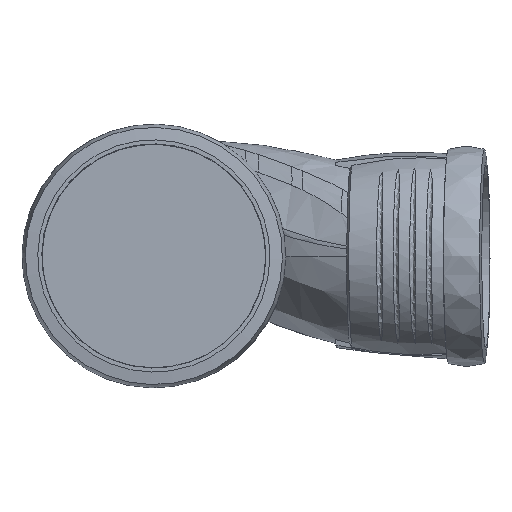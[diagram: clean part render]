
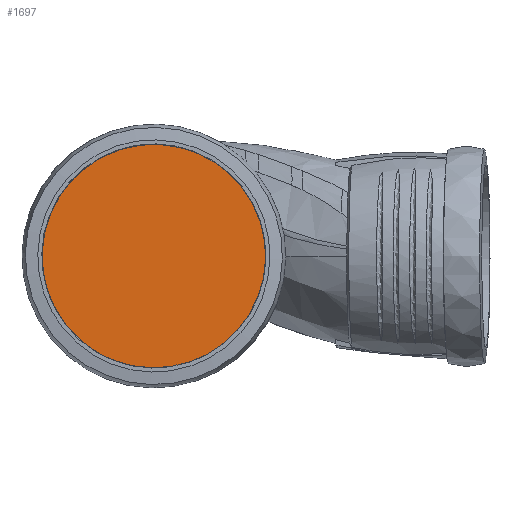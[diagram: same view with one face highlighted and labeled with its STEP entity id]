
A CAD part, top view. The second image highlights one B-rep face of the part: STEP entity #1697.
In plain terms, the highlighted planar face has unit normal (0, 0, 1).
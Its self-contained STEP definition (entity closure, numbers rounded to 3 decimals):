
#41=PLANE('',#1850);
#149=FACE_OUTER_BOUND('',#247,.T.);
#247=EDGE_LOOP('',(#1199,#1200));
#451=CIRCLE('',#1851,55.5);
#452=CIRCLE('',#1852,55.5);
#717=VERTEX_POINT('',#4420);
#718=VERTEX_POINT('',#4421);
#915=EDGE_CURVE('',#717,#718,#451,.T.);
#916=EDGE_CURVE('',#718,#717,#452,.T.);
#1199=ORIENTED_EDGE('',*,*,#915,.T.);
#1200=ORIENTED_EDGE('',*,*,#916,.T.);
#1697=ADVANCED_FACE('',(#149),#41,.T.);
#1850=AXIS2_PLACEMENT_3D('',#4419,#2043,#2044);
#1851=AXIS2_PLACEMENT_3D('',#4422,#2045,#2046);
#1852=AXIS2_PLACEMENT_3D('',#4423,#2047,#2048);
#2043=DIRECTION('center_axis',(0.,0.,
1.));
#2044=DIRECTION('ref_axis',(1.,0.,0.));
#2045=DIRECTION('center_axis',(0.,0.,1.));
#2046=DIRECTION('ref_axis',(-1.,0.,0.));
#2047=DIRECTION('center_axis',(0.,0.,1.));
#2048=DIRECTION('ref_axis',(-1.,0.,0.));
#4419=CARTESIAN_POINT('Origin',(0.,0.,
45.5));
#4420=CARTESIAN_POINT('',(12.744,-54.017,45.5));
#4421=CARTESIAN_POINT('',(26.608,-48.706,45.5));
#4422=CARTESIAN_POINT('Origin',(0.,0.,45.5));
#4423=CARTESIAN_POINT('Origin',(0.,0.,45.5));
